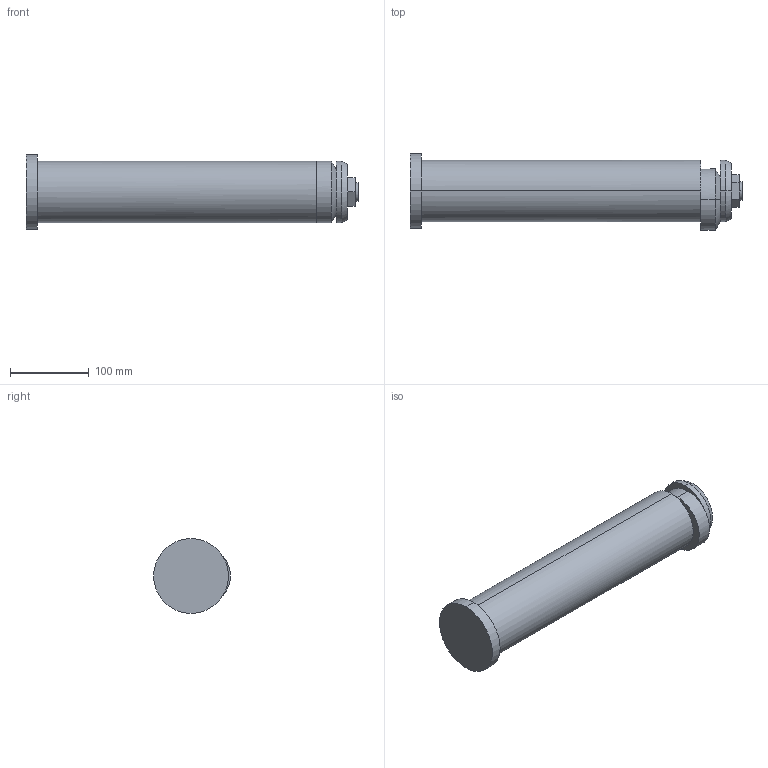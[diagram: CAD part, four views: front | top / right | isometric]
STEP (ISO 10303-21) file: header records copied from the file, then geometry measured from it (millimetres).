
FILE_DESCRIPTION(('CATIA V5 STEP Exchange'),'2;1');
FILE_NAME('C:\Users\Raffaele\Desktop\3D X SITO CF\PERNI -STAFFE SOLLEVAMENTO\395PSF\GSB_OILLESS_C10302078355\STEP-2.03\395PSF-6.stp','2019-07-03T09:29:49+00:00',('none'),('none'),'CATIA Version 5 Release 20 GA (IN-10)','CATIA V5 STEP AP203','none');
FILE_SCHEMA(('CONFIG_CONTROL_DESIGN'));
Length unit declared in the file: millimetre
Products named in the file (1): 395PSF-6
Bounding box: 421.5 x 97.5 x 95 mm (x, y, z)
Volume: 1941832.6 mm3; surface area: 130091.5 mm2
Topology: 1 solids, 2 shells, 34 faces, 100 edges, 73 vertices
Faces by surface type: plane 16, cylinder 14, cone 4
Entity records: 1366 total; most frequent: CARTESIAN_POINT 428, ORIENTED_EDGE 200, DIRECTION 151, EDGE_CURVE 100, AXIS2_PLACEMENT_3D 82, VERTEX_POINT 73, CIRCLE 47, EDGE_LOOP 39
